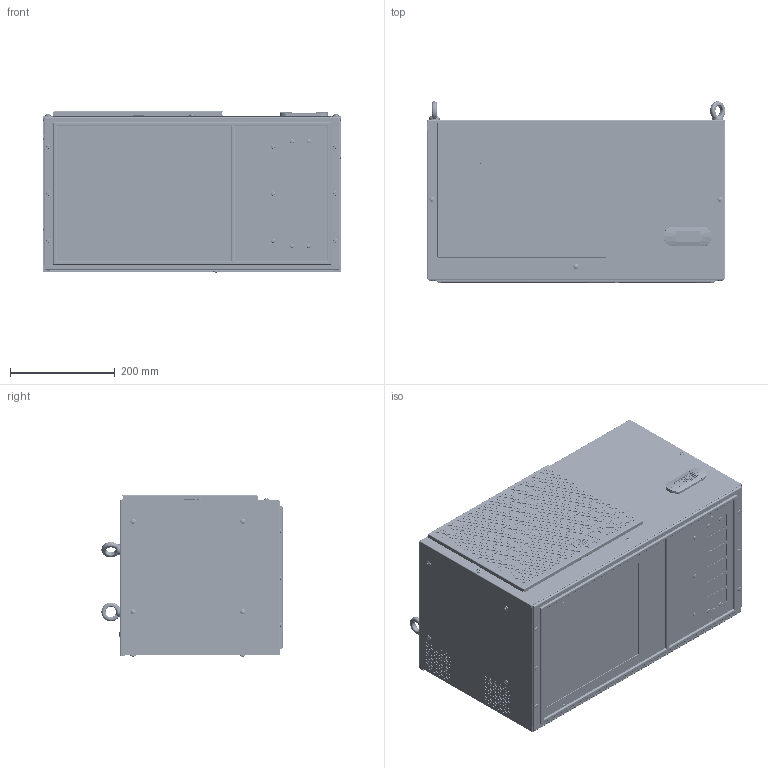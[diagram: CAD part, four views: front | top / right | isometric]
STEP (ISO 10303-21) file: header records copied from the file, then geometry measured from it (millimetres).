
FILE_DESCRIPTION (( 'STEP AP203' ), '1' );
FILE_NAME ('ROOF-500W(NA).STEP', '2019-05-24T15:26:30', ( 'Ufficio Tecnico' ), ( 'Hewlett-Packard Company' ), 'SwSTEP 2.0', 'SolidWorks 2017', '' );
FILE_SCHEMA (( 'CONFIG_CONTROL_DESIGN' ));
Products named in the file (2): ROOF-500W(NA)
Bounding box: 571.21 x 346.5 x 308.61 mm (x, y, z)
Surface area: 3494467.1 mm2 (no closed solid volume)
Topology: 0 solids, 138 shells, 10291 faces, 27970 edges, 18294 vertices
Faces by surface type: cylinder 5408, plane 3854, bspline 437, cone 353, torus 231, sphere 8
Entity records: 364658 total; most frequent: CARTESIAN_POINT 92129, DIRECTION 56398, ORIENTED_EDGE 55852, EDGE_CURVE 27948, AXIS2_PLACEMENT_3D 21007, VERTEX_POINT 18295, EDGE_LOOP 15230, LINE 14384
